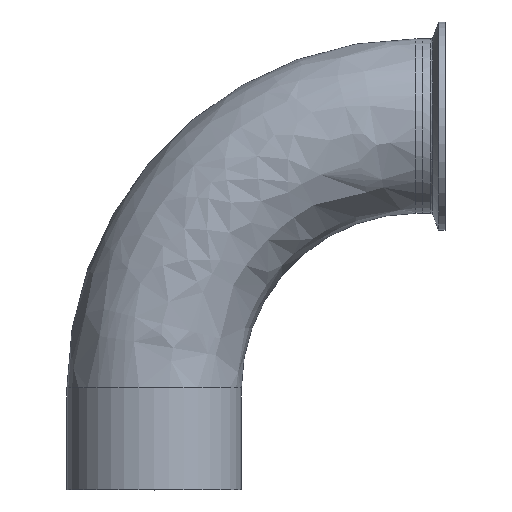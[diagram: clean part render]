
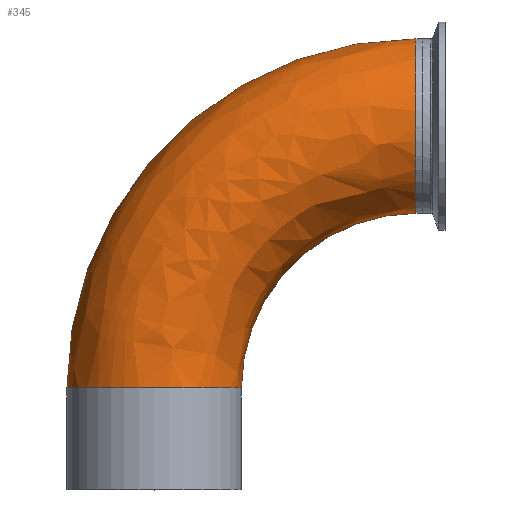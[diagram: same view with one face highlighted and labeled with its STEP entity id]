
A CAD part, top view. The second image highlights one B-rep face of the part: STEP entity #345.
In plain terms, the highlighted free-form (B-spline) face has degree [3, 3] with [4, 4] control points.
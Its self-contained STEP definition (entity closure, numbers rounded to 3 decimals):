
#75 = CARTESIAN_POINT ( 'NONE',  ( -38.1, 44.5, 0. ) ) ;
#146 = CARTESIAN_POINT ( 'NONE',  ( -38.1, 133.774, 0. ) ) ;
#160 = EDGE_CURVE ( 'NONE', #1362, #452, #1216, .T. ) ;
#219 = DIRECTION ( 'NONE',  ( 0., 1., 0. ) ) ;
#233 = CARTESIAN_POINT ( 'NONE',  ( 114.3, 158.8, 0. ) ) ;
#260 = DIRECTION ( 'NONE',  ( -1., 0., 0. ) ) ;
#274 =( BOUNDED_SURFACE ( )  B_SPLINE_SURFACE ( 3, 3, ( 
 ( #1302, #146, #317, #319 ),
 ( #334, #339, #1150, #1121 ),
 ( #1039, #946, #878, #360 ),
 ( #375, #388, #567, #580 ) ),
 .UNSPECIFIED., .F., .F., .T. ) 
 B_SPLINE_SURFACE_WITH_KNOTS ( ( 4, 4 ),
 ( 4, 4 ),
 ( 0., 1. ),
 ( 0., 1. ),
 .UNSPECIFIED. ) 
 GEOMETRIC_REPRESENTATION_ITEM ( )  RATIONAL_B_SPLINE_SURFACE ( (
 ( 1., 0.805, 0.805, 1.),
 ( 0.333, 0.268, 0.268, 0.333),
 ( 0.333, 0.268, 0.268, 0.333),
 ( 1., 0.805, 0.805, 1.) ) ) 
 REPRESENTATION_ITEM ( '' )  SURFACE ( )  );
#289 = CIRCLE ( 'NONE', #1377, 76.2 ) ;
#317 = CARTESIAN_POINT ( 'NONE',  ( 25.026, 196.9, 0. ) ) ;
#319 = CARTESIAN_POINT ( 'NONE',  ( 114.3, 196.9, 0. ) ) ;
#334 = CARTESIAN_POINT ( 'NONE',  ( -38.1, 44.5, 76.2 ) ) ;
#339 = CARTESIAN_POINT ( 'NONE',  ( -38.1, 133.774, 76.2 ) ) ;
#345 = ADVANCED_FACE ( 'NONE', ( #468 ), #274, .T. ) ;
#360 = CARTESIAN_POINT ( 'NONE',  ( 114.3, 120.7, 76.2 ) ) ;
#375 = CARTESIAN_POINT ( 'NONE',  ( 38.1, 44.5, 0. ) ) ;
#388 = CARTESIAN_POINT ( 'NONE',  ( 38.1, 89.137, 0. ) ) ;
#422 = ORIENTED_EDGE ( 'NONE', *, *, #1639, .F. ) ;
#452 = VERTEX_POINT ( 'NONE', #1171 ) ;
#468 = FACE_OUTER_BOUND ( 'NONE', #1274, .T. ) ;
#567 = CARTESIAN_POINT ( 'NONE',  ( 69.663, 120.7, 0. ) ) ;
#580 = CARTESIAN_POINT ( 'NONE',  ( 114.3, 120.7, 0. ) ) ;
#621 = CARTESIAN_POINT ( 'NONE',  ( 114.3, 196.9, 0. ) ) ;
#629 = VERTEX_POINT ( 'NONE', #621 ) ;
#698 = ORIENTED_EDGE ( 'NONE', *, *, #1789, .T. ) ;
#731 = EDGE_CURVE ( 'NONE', #452, #807, #289, .T. ) ;
#773 = DIRECTION ( 'NONE',  ( 0., 1., 0. ) ) ;
#779 = CARTESIAN_POINT ( 'NONE',  ( 0., 44.5, 0. ) ) ;
#807 = VERTEX_POINT ( 'NONE', #1646 ) ;
#840 = DIRECTION ( 'NONE',  ( -1., 0., 0. ) ) ;
#841 = CIRCLE ( 'NONE', #1807, 152.4 ) ;
#864 = DIRECTION ( 'NONE',  ( 0., 0., -1. ) ) ;
#878 = CARTESIAN_POINT ( 'NONE',  ( 69.663, 120.7, 76.2 ) ) ;
#946 = CARTESIAN_POINT ( 'NONE',  ( 38.1, 89.137, 76.2 ) ) ;
#977 = CARTESIAN_POINT ( 'NONE',  ( 114.3, 44.5, 0. ) ) ;
#1015 = DIRECTION ( 'NONE',  ( -1., 0., 0. ) ) ;
#1039 = CARTESIAN_POINT ( 'NONE',  ( 38.1, 44.5, 76.2 ) ) ;
#1073 = AXIS2_PLACEMENT_3D ( 'NONE', #779, #773, #1015 ) ;
#1084 = AXIS2_PLACEMENT_3D ( 'NONE', #233, #260, #219 ) ;
#1121 = CARTESIAN_POINT ( 'NONE',  ( 114.3, 196.9, 76.2 ) ) ;
#1150 = CARTESIAN_POINT ( 'NONE',  ( 25.026, 196.9, 76.2 ) ) ;
#1171 = CARTESIAN_POINT ( 'NONE',  ( 38.1, 44.5, 0. ) ) ;
#1216 = CIRCLE ( 'NONE', #1073, 38.1 ) ;
#1274 = EDGE_LOOP ( 'NONE', ( #1788, #1571, #698, #422 ) ) ;
#1302 = CARTESIAN_POINT ( 'NONE',  ( -38.1, 44.5, 0. ) ) ;
#1305 = CIRCLE ( 'NONE', #1084, 38.1 ) ;
#1362 = VERTEX_POINT ( 'NONE', #75 ) ;
#1377 = AXIS2_PLACEMENT_3D ( 'NONE', #1666, #1577, #1654 ) ;
#1571 = ORIENTED_EDGE ( 'NONE', *, *, #731, .T. ) ;
#1577 = DIRECTION ( 'NONE',  ( 0., 0., -1. ) ) ;
#1639 = EDGE_CURVE ( 'NONE', #1362, #629, #841, .T. ) ;
#1646 = CARTESIAN_POINT ( 'NONE',  ( 114.3, 120.7, 0. ) ) ;
#1654 = DIRECTION ( 'NONE',  ( -1., 0., 0. ) ) ;
#1666 = CARTESIAN_POINT ( 'NONE',  ( 114.3, 44.5, 0. ) ) ;
#1788 = ORIENTED_EDGE ( 'NONE', *, *, #160, .T. ) ;
#1789 = EDGE_CURVE ( 'NONE', #807, #629, #1305, .T. ) ;
#1807 = AXIS2_PLACEMENT_3D ( 'NONE', #977, #864, #840 ) ;
